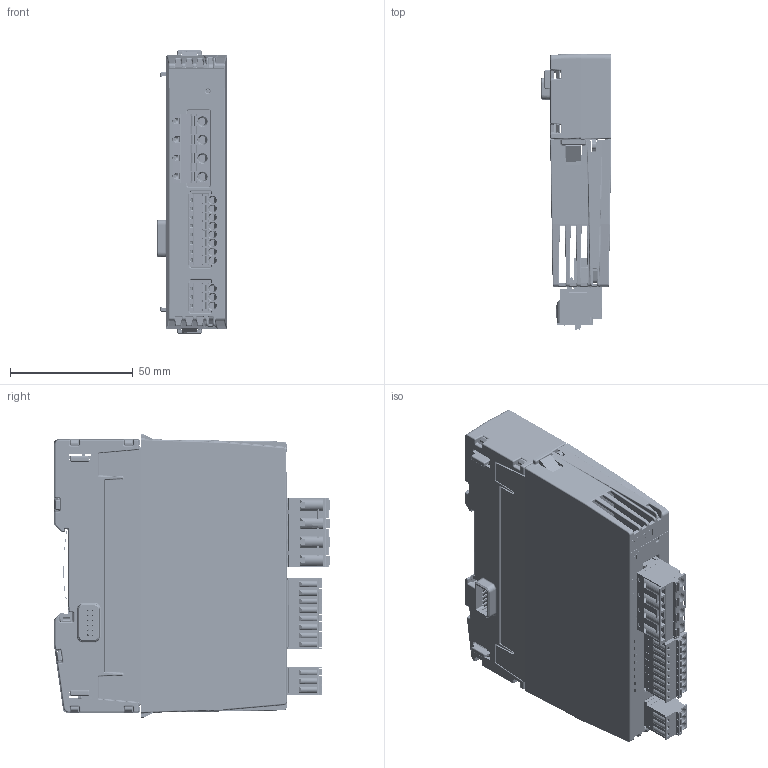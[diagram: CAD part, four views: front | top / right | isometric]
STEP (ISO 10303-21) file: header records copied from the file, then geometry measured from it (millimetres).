
FILE_DESCRIPTION(/* description */ (''),/* implementation_level */ '2;1');
FILE_NAME(/* name */ 'C:\Users\Public\Documents\Autodesk\Inventor 2023\PM03B_Simplified+BackBB21C.stp',/* time_stamp */ '2024-10-17T19:41:11+02:00',/* author */ ('shoma'),/* organization */ (''),/* preprocessor_version */ 'ST-DEVELOPER v19',/* originating_system */ 'Autodesk Inventor 2023',/* authorisation */ '');
FILE_SCHEMA (('AUTOMOTIVE_DESIGN { 1 0 10303 214 3 1 1 }'));
Products named in the file (1): PM03B_Simplified+BackBB21C
Bounding box: 28.9 x 112.6 x 115.5 mm (x, y, z)
Volume: 135859.6 mm3; surface area: 89793.6 mm2
Topology: 8 solids, 43 shells, 8447 faces, 22601 edges, 14201 vertices
Faces by surface type: plane 5448, cylinder 2072, bspline 587, sphere 163, cone 135, torus 42
Full cylindrical faces by diameter (mm): 0.296 x2, 0.3 x36, 0.434 x1, 0.457 x2, 0.7 x36, 0.8 x6, 0.85 x24, 0.9 x8, 1.17 x11, 1.25 x11, 1.3 x11, 1.4 x8, 1.5 x4, 1.6 x9, 2.35 x2, 2.5 x1, 2.8 x3, 3 x5, 3.1 x11, 3.25 x2, 4 x4
Entity records: 286359 total; most frequent: CARTESIAN_POINT 67145, ORIENTED_EDGE 44856, DIRECTION 42431, EDGE_CURVE 22428, LINE 16387, VECTOR 16387, VERTEX_POINT 14197, AXIS2_PLACEMENT_3D 13022
